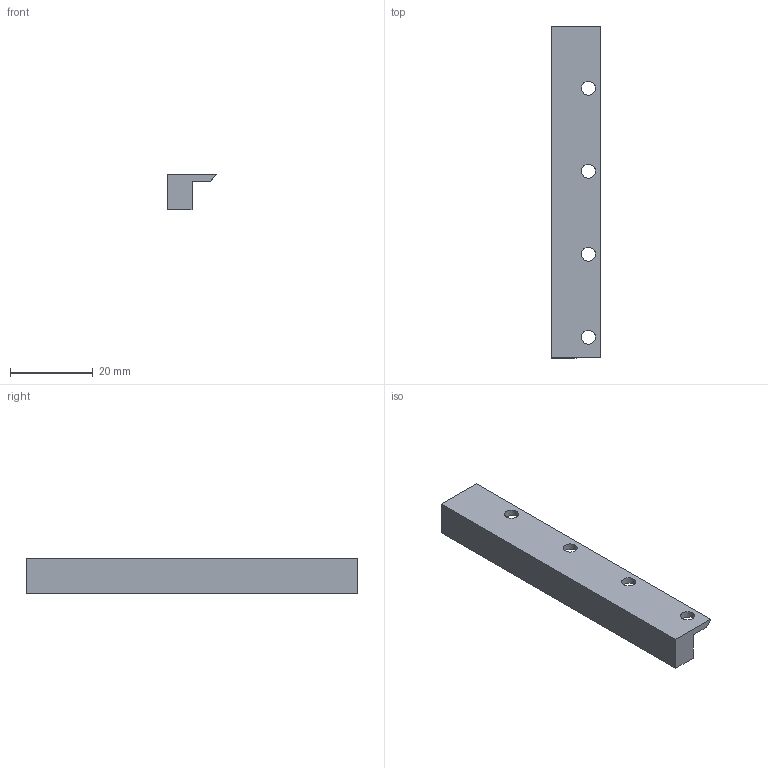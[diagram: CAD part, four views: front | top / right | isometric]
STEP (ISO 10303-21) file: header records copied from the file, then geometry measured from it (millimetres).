
FILE_DESCRIPTION(/* description */ (''),/* implementation_level */ '2;1');
FILE_NAME(/* name */ 'Right_Rod_Support.step',/* time_stamp */ '2026-09-24T09:35:19-07:00',/* author */ ('박정현'),/* organization */ (''),/* preprocessor_version */ 'ST-DEVELOPER v20.2',/* originating_system */ 'Autodesk Inventor 2027',/* authorisation */ '');
FILE_SCHEMA (('AUTOMOTIVE_DESIGN { 1 0 10303 214 3 1 1 }'));
Length unit declared in the file: millimetre
Products named in the file (1): Right_Rod_Support
Bounding box: 12 x 80 x 8.5 mm (x, y, z)
Volume: 4560.1 mm3; surface area: 3521.3 mm2
Topology: 1 solids, 1 shells, 20 faces, 54 edges, 36 vertices
Faces by surface type: plane 12, cylinder 8
Full cylindrical faces by diameter (mm): 2.5 x4, 3.4 x4
Entity records: 701 total; most frequent: DIRECTION 120, CARTESIAN_POINT 111, ORIENTED_EDGE 108, EDGE_CURVE 54, AXIS2_PLACEMENT_3D 45, VERTEX_POINT 36, LINE 30, VECTOR 30
